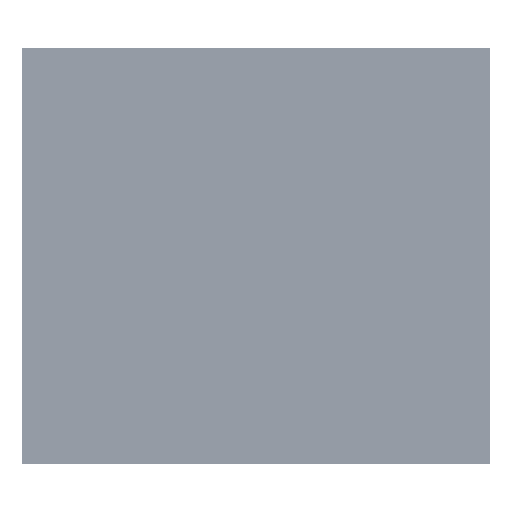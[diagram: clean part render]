
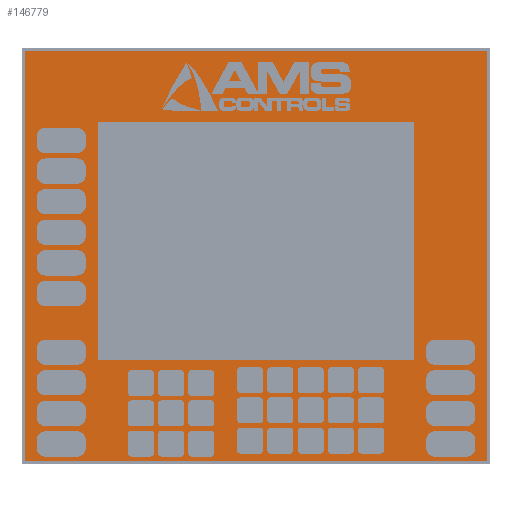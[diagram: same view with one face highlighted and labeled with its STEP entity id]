
A CAD part, top view. The second image highlights one B-rep face of the part: STEP entity #146779.
In plain terms, the highlighted planar face has unit normal (0, 0, 1).
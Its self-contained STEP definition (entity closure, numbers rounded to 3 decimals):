
#8363=FACE_BOUND('',#21219,.T.);
#13210=FACE_OUTER_BOUND('',#21218,.T.);
#21218=EDGE_LOOP('',(#98894,#98895,#98896,#98897));
#21219=EDGE_LOOP('',(#98898,#98899,#98900,#98901));
#31036=LINE('',#202196,#47126);
#31037=LINE('',#202198,#47127);
#31038=LINE('',#202200,#47128);
#31039=LINE('',#202201,#47129);
#31040=LINE('',#202204,#47130);
#31041=LINE('',#202206,#47131);
#31042=LINE('',#202208,#47132);
#31043=LINE('',#202209,#47133);
#47126=VECTOR('',#166020,10.827);
#47127=VECTOR('',#166021,12.205);
#47128=VECTOR('',#166022,10.827);
#47129=VECTOR('',#166023,12.205);
#47130=VECTOR('',#166024,6.276);
#47131=VECTOR('',#166025,8.354);
#47132=VECTOR('',#166026,6.276);
#47133=VECTOR('',#166027,8.354);
#63214=VERTEX_POINT('',#202194);
#63215=VERTEX_POINT('',#202195);
#63216=VERTEX_POINT('',#202197);
#63217=VERTEX_POINT('',#202199);
#63218=VERTEX_POINT('',#202202);
#63219=VERTEX_POINT('',#202203);
#63220=VERTEX_POINT('',#202205);
#63221=VERTEX_POINT('',#202207);
#77406=EDGE_CURVE('',#63214,#63215,#31036,.T.);
#77407=EDGE_CURVE('',#63216,#63215,#31037,.T.);
#77408=EDGE_CURVE('',#63216,#63217,#31038,.T.);
#77409=EDGE_CURVE('',#63214,#63217,#31039,.T.);
#77410=EDGE_CURVE('',#63218,#63219,#31040,.T.);
#77411=EDGE_CURVE('',#63218,#63220,#31041,.T.);
#77412=EDGE_CURVE('',#63220,#63221,#31042,.T.);
#77413=EDGE_CURVE('',#63219,#63221,#31043,.T.);
#98894=ORIENTED_EDGE('',*,*,#77406,.T.);
#98895=ORIENTED_EDGE('',*,*,#77407,.F.);
#98896=ORIENTED_EDGE('',*,*,#77408,.T.);
#98897=ORIENTED_EDGE('',*,*,#77409,.F.);
#98898=ORIENTED_EDGE('',*,*,#77410,.F.);
#98899=ORIENTED_EDGE('',*,*,#77411,.T.);
#98900=ORIENTED_EDGE('',*,*,#77412,.T.);
#98901=ORIENTED_EDGE('',*,*,#77413,.F.);
#141408=PLANE('',#155765);
#146779=ADVANCED_FACE('',(#13210,#8363),#141408,.F.);
#155765=AXIS2_PLACEMENT_3D('',#202193,#166018,#166019);
#166018=DIRECTION('center_axis',(0.,0.,-1.));
#166019=DIRECTION('ref_axis',(-1.,0.,0.));
#166020=DIRECTION('',(0.,-1.,0.));
#166021=DIRECTION('',(-1.,0.,0.));
#166022=DIRECTION('',(0.,1.,0.));
#166023=DIRECTION('',(1.,0.,0.));
#166024=DIRECTION('',(0.,-1.,0.));
#166025=DIRECTION('',(1.,0.,0.));
#166026=DIRECTION('',(0.,-1.,0.));
#166027=DIRECTION('',(1.,0.,0.));
#202193=CARTESIAN_POINT('Origin',(-6.102,-5.413,0.05));
#202194=CARTESIAN_POINT('',(-6.102,5.413,0.05));
#202195=CARTESIAN_POINT('',(-6.102,-5.413,0.05));
#202196=CARTESIAN_POINT('',(-6.102,5.413,0.05));
#202197=CARTESIAN_POINT('',(6.102,-5.413,0.05));
#202198=CARTESIAN_POINT('',(6.102,-5.413,0.05));
#202199=CARTESIAN_POINT('',(6.102,5.413,0.05));
#202200=CARTESIAN_POINT('',(6.102,-5.413,0.05));
#202201=CARTESIAN_POINT('',(-6.102,5.413,0.05));
#202202=CARTESIAN_POINT('',(-4.177,3.539,0.05));
#202203=CARTESIAN_POINT('',(-4.177,-2.736,0.05));
#202204=CARTESIAN_POINT('',(-4.177,3.539,0.05));
#202205=CARTESIAN_POINT('',(4.177,3.539,0.05));
#202206=CARTESIAN_POINT('',(-4.177,3.539,0.05));
#202207=CARTESIAN_POINT('',(4.177,-2.736,0.05));
#202208=CARTESIAN_POINT('',(4.177,3.539,0.05));
#202209=CARTESIAN_POINT('',(-4.177,-2.736,0.05));
